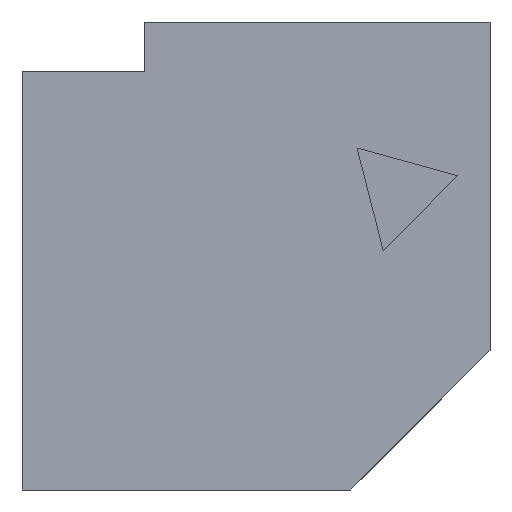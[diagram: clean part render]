
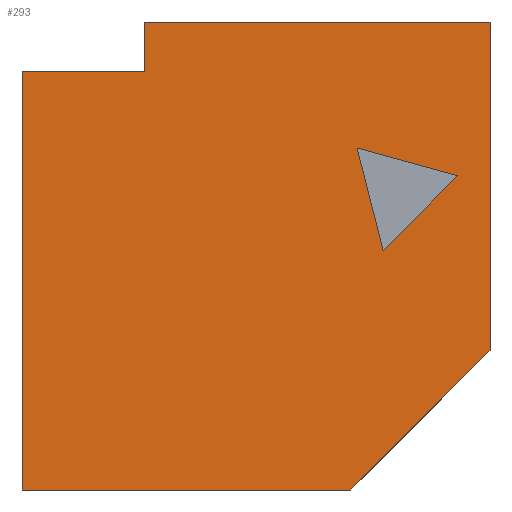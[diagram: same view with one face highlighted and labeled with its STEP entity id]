
A CAD part, front view. The second image highlights one B-rep face of the part: STEP entity #293.
In plain terms, the highlighted planar face has unit normal (0, -1, 0).
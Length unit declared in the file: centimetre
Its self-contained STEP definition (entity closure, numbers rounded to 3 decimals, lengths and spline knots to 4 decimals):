
#20 = CARTESIAN_POINT ( 'NONE',  ( 716.1332, 0., 730.6766 ) ) ;
#28 = DIRECTION ( 'NONE',  ( 0.247, 0., -0.969 ) ) ;
#34 = LINE ( 'NONE', #320, #833 ) ;
#35 = VERTEX_POINT ( 'NONE', #724 ) ;
#39 = DIRECTION ( 'NONE',  ( 0.707, 0., 0.707 ) ) ;
#41 = VERTEX_POINT ( 'NONE', #140 ) ;
#46 = LINE ( 'NONE', #334, #517 ) ;
#51 = LINE ( 'NONE', #867, #816 ) ;
#104 = VECTOR ( 'NONE', #28, 100. ) ;
#107 = ORIENTED_EDGE ( 'NONE', *, *, #457, .T. ) ;
#108 = DIRECTION ( 'NONE',  ( 0.707, 0., 0.707 ) ) ;
#112 = CARTESIAN_POINT ( 'NONE',  ( 0., 0., 893.8421 ) ) ;
#114 = VERTEX_POINT ( 'NONE', #345 ) ;
#115 = VERTEX_POINT ( 'NONE', #138 ) ;
#138 = CARTESIAN_POINT ( 'NONE',  ( 0., 0., 0. ) ) ;
#140 = CARTESIAN_POINT ( 'NONE',  ( 1000., 0., 1000. ) ) ;
#173 = CARTESIAN_POINT ( 'NONE',  ( 931.4855, 0., 671.5005 ) ) ;
#179 = CARTESIAN_POINT ( 'NONE',  ( 0., 0., 1000. ) ) ;
#201 = LINE ( 'NONE', #266, #564 ) ;
#210 = DIRECTION ( 'NONE',  ( 1., 0., 0. ) ) ;
#222 = AXIS2_PLACEMENT_3D ( 'NONE', #448, #588, #460 ) ;
#229 = EDGE_CURVE ( 'NONE', #540, #456, #909, .T. ) ;
#236 = DIRECTION ( 'NONE',  ( -0.964, 0., 0.265 ) ) ;
#241 = ORIENTED_EDGE ( 'NONE', *, *, #399, .F. ) ;
#245 = ORIENTED_EDGE ( 'NONE', *, *, #468, .F. ) ;
#248 = ORIENTED_EDGE ( 'NONE', *, *, #498, .T. ) ;
#266 = CARTESIAN_POINT ( 'NONE',  ( 261.8852, 0., 893.8421 ) ) ;
#282 = VECTOR ( 'NONE', #469, 100. ) ;
#287 = EDGE_CURVE ( 'NONE', #114, #540, #839, .T. ) ;
#293 = ADVANCED_FACE ( 'NONE', ( #451, #597 ), #815, .F. ) ;
#296 = VECTOR ( 'NONE', #210, 100. ) ;
#320 = CARTESIAN_POINT ( 'NONE',  ( 1000., 0., 1000. ) ) ;
#323 = LINE ( 'NONE', #855, #413 ) ;
#332 = EDGE_CURVE ( 'NONE', #823, #357, #46, .T. ) ;
#334 = CARTESIAN_POINT ( 'NONE',  ( 0., 0., 893.8421 ) ) ;
#345 = CARTESIAN_POINT ( 'NONE',  ( 931.4855, 0., 671.5005 ) ) ;
#356 = DIRECTION ( 'NONE',  ( 0., 0., -1. ) ) ;
#357 = VERTEX_POINT ( 'NONE', #486 ) ;
#369 = VERTEX_POINT ( 'NONE', #919 ) ;
#373 = ORIENTED_EDGE ( 'NONE', *, *, #850, .F. ) ;
#399 = EDGE_CURVE ( 'NONE', #41, #35, #34, .T. ) ;
#413 = VECTOR ( 'NONE', #108, 100. ) ;
#448 = CARTESIAN_POINT ( 'NONE',  ( 0., 0., 1000. ) ) ;
#451 = FACE_BOUND ( 'NONE', #916, .T. ) ;
#456 = VERTEX_POINT ( 'NONE', #552 ) ;
#457 = EDGE_CURVE ( 'NONE', #115, #843, #853, .T. ) ;
#460 = DIRECTION ( 'NONE',  ( 0., 0., 1. ) ) ;
#468 = EDGE_CURVE ( 'NONE', #357, #369, #201, .T. ) ;
#469 = DIRECTION ( 'NONE',  ( 1., 0., 0. ) ) ;
#477 = DIRECTION ( 'NONE',  ( 0., 0., -1. ) ) ;
#486 = CARTESIAN_POINT ( 'NONE',  ( 261.8852, 0., 893.8421 ) ) ;
#487 = VECTOR ( 'NONE', #236, 100. ) ;
#498 = EDGE_CURVE ( 'NONE', #823, #115, #51, .T. ) ;
#504 = VECTOR ( 'NONE', #39, 100. ) ;
#517 = VECTOR ( 'NONE', #780, 100. ) ;
#540 = VERTEX_POINT ( 'NONE', #870 ) ;
#549 = ORIENTED_EDGE ( 'NONE', *, *, #287, .F. ) ;
#552 = CARTESIAN_POINT ( 'NONE',  ( 771.825, 0., 511.84 ) ) ;
#563 = CARTESIAN_POINT ( 'NONE',  ( 0., 0., 0. ) ) ;
#564 = VECTOR ( 'NONE', #714, 100. ) ;
#588 = DIRECTION ( 'NONE',  ( 0., 1., 0. ) ) ;
#597 = FACE_OUTER_BOUND ( 'NONE', #762, .T. ) ;
#622 = CARTESIAN_POINT ( 'NONE',  ( 702.2302, 0., 0. ) ) ;
#650 = ORIENTED_EDGE ( 'NONE', *, *, #782, .T. ) ;
#694 = LINE ( 'NONE', #698, #504 ) ;
#698 = CARTESIAN_POINT ( 'NONE',  ( 771.825, 0., 511.84 ) ) ;
#714 = DIRECTION ( 'NONE',  ( 0., 0., 1. ) ) ;
#724 = CARTESIAN_POINT ( 'NONE',  ( 1000., 0., 297.7698 ) ) ;
#747 = ORIENTED_EDGE ( 'NONE', *, *, #229, .F. ) ;
#762 = EDGE_LOOP ( 'NONE', ( #804, #245, #840, #248, #107, #650, #241 ) ) ;
#779 = LINE ( 'NONE', #179, #282 ) ;
#780 = DIRECTION ( 'NONE',  ( 1., 0., 0. ) ) ;
#782 = EDGE_CURVE ( 'NONE', #843, #35, #323, .T. ) ;
#804 = ORIENTED_EDGE ( 'NONE', *, *, #861, .F. ) ;
#815 = PLANE ( 'NONE',  #222 ) ;
#816 = VECTOR ( 'NONE', #356, 100. ) ;
#823 = VERTEX_POINT ( 'NONE', #112 ) ;
#833 = VECTOR ( 'NONE', #477, 100. ) ;
#839 = LINE ( 'NONE', #173, #487 ) ;
#840 = ORIENTED_EDGE ( 'NONE', *, *, #332, .F. ) ;
#843 = VERTEX_POINT ( 'NONE', #622 ) ;
#850 = EDGE_CURVE ( 'NONE', #456, #114, #694, .T. ) ;
#853 = LINE ( 'NONE', #563, #296 ) ;
#855 = CARTESIAN_POINT ( 'NONE',  ( 1000., 0., 297.7698 ) ) ;
#861 = EDGE_CURVE ( 'NONE', #369, #41, #779, .T. ) ;
#867 = CARTESIAN_POINT ( 'NONE',  ( 0., 0., 1000. ) ) ;
#870 = CARTESIAN_POINT ( 'NONE',  ( 716.1332, 0., 730.6766 ) ) ;
#909 = LINE ( 'NONE', #20, #104 ) ;
#916 = EDGE_LOOP ( 'NONE', ( #747, #549, #373 ) ) ;
#919 = CARTESIAN_POINT ( 'NONE',  ( 261.8852, 0., 1000. ) ) ;
